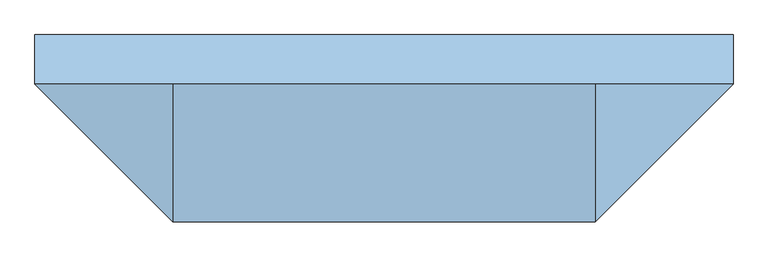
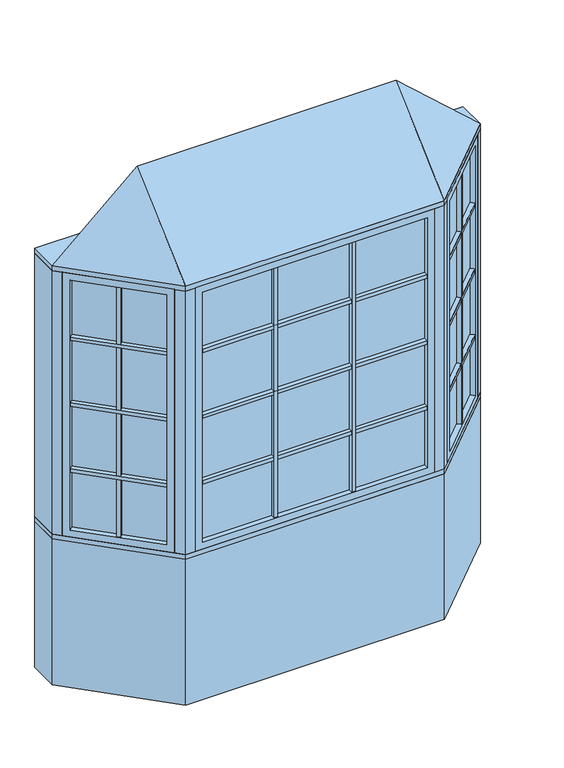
"""IFC4 building model written with IfcOpenShell, lengths in millimetres: window geometry, Pollard_Windows_Tudor Casement Bows and Bays : AML-BAY 45 AFR0614-10-500_GC."""

from ifc_helpers import new_model, si_unit, frame, origin, origin_with_axes, place, context, project, spatial, polyline, outline, extrude, faceted_brep, source, transform, mapped, element, save


def window_c85f83c4(model_context):
    return source(origin(), model_context, "Body", "SolidModel", [
        extrude(outline(polyline([(709.3614193, -437.1108753), (693.8050701, -421.5545261), (1001.616171, -113.7434252), (1017.1725202, -129.2997743), (709.3614193, -437.1108753)])), frame((0.0, 0.0, 1490.998), z_axis=(0.0, 0.0, 1.0), x_axis=(1.0, 0.0, 0.0)), (0.0, 0.0, 1.0), 18.0),
        extrude(outline(polyline([(690.2129677, -417.9624236), (674.6566185, -402.4060744), (982.4677194, -94.5949735), (998.0240686, -110.1513227), (690.2129677, -417.9624236)])), frame((0.0, 0.0, 1490.998), z_axis=(0.0, 0.0, 1.0), x_axis=(1.0, 0.0, 0.0)), (0.0, 0.0, 1.0), 18.0),
        extrude(outline(polyline([(709.3614193, -437.1108753), (693.8050701, -421.5545261), (1001.616171, -113.7434252), (1017.1725202, -129.2997743), (709.3614193, -437.1108753)])), frame((0.0, 0.0, 1140.998), z_axis=(0.0, 0.0, 1.0), x_axis=(1.0, 0.0, 0.0)), (0.0, 0.0, 1.0), 18.0),
        extrude(outline(polyline([(690.2129677, -417.9624236), (674.6566185, -402.4060744), (982.4677194, -94.5949735), (998.0240686, -110.1513227), (690.2129677, -417.9624236)])), frame((0.0, 0.0, 1140.998), z_axis=(0.0, 0.0, 1.0), x_axis=(1.0, 0.0, 0.0)), (0.0, 0.0, 1.0), 18.0),
        extrude(outline(polyline([(709.3614193, -437.1108753), (693.8050701, -421.5545261), (1001.616171, -113.7434252), (1017.1725202, -129.2997743), (709.3614193, -437.1108753)])), frame((0.0, 0.0, 1490.998), z_axis=(0.0, 0.0, 1.0), x_axis=(1.0, 0.0, 0.0)), (0.0, 0.0, 1.0), 18.0),
        extrude(outline(polyline([(690.2129677, -417.9624236), (674.6566185, -402.4060744), (982.4677194, -94.5949735), (998.0240686, -110.1513227), (690.2129677, -417.9624236)])), frame((0.0, 0.0, 1490.998), z_axis=(0.0, 0.0, 1.0), x_axis=(1.0, 0.0, 0.0)), (0.0, 0.0, 1.0), 18.0),
        extrude(outline(polyline([(709.3614193, -437.1108753), (693.8050701, -421.5545261), (1001.616171, -113.7434252), (1017.1725202, -129.2997743), (709.3614193, -437.1108753)])), frame((0.0, 0.0, 1490.998), z_axis=(0.0, 0.0, 1.0), x_axis=(1.0, 0.0, 0.0)), (0.0, 0.0, 1.0), 18.0),
        extrude(outline(polyline([(690.2129677, -417.9624236), (674.6566185, -402.4060744), (982.4677194, -94.5949735), (998.0240686, -110.1513227), (690.2129677, -417.9624236)])), frame((0.0, 0.0, 1490.998), z_axis=(0.0, 0.0, 1.0), x_axis=(1.0, 0.0, 0.0)), (0.0, 0.0, 1.0), 18.0),
        extrude(outline(polyline([(709.3614193, -437.1108753), (693.8050701, -421.5545261), (1001.616171, -113.7434252), (1017.1725202, -129.2997743), (709.3614193, -437.1108753)])), frame((0.0, 0.0, 1840.998), z_axis=(0.0, 0.0, 1.0), x_axis=(1.0, 0.0, 0.0)), (0.0, 0.0, 1.0), 18.0),
        extrude(outline(polyline([(690.2129677, -417.9624236), (674.6566185, -402.4060744), (982.4677194, -94.5949735), (998.0240686, -110.1513227), (690.2129677, -417.9624236)])), frame((0.0, 0.0, 1840.998), z_axis=(0.0, 0.0, 1.0), x_axis=(1.0, 0.0, 0.0)), (0.0, 0.0, 1.0), 18.0),
        extrude(outline(polyline([(854.0745816, -261.2850146), (869.6309308, -276.8413638), (856.9030087, -289.5692858), (841.3466595, -274.0129366), (854.0745816, -261.2850146)])), frame((0.0, 0.0, 835.8628), z_axis=(0.0, 0.0, 1.0), x_axis=(1.0, 0.0, 0.0)), (0.0, 0.0, 1.0), 1328.2704),
        extrude(outline(polyline([(850.4824791, -257.6929121), (837.7545571, -270.4208342), (822.1982079, -254.864485), (834.92613, -242.1365629), (850.4824791, -257.6929121)])), frame((0.0, 0.0, 835.8628), z_axis=(0.0, 0.0, 1.0), x_axis=(1.0, 0.0, 0.0)), (0.0, 0.0, 1.0), 1328.2704),
        extrude(outline(polyline([(1010.5964271, -104.763169), (684.824814, -430.5347822), (681.2327115, -426.9426797), (1007.0043247, -101.1710666), (1010.5964271, -104.763169)])), frame((0.0, 0.0, 823.1628), z_axis=(0.0, 0.0, 1.0), x_axis=(1.0, 0.0, 0.0)), (0.0, 0.0, 1.0), 1353.6704),
        faceted_brep([(1001.616171, -113.7434252, 835.8628), (1019.5766833, -131.7039374, 835.8628), (1019.5766833, -131.7039374, 2164.1332), (1001.616171, -113.7434252, 2164.1332), (1007.0043247, -101.1710666, 823.1628), (1010.5964271, -104.763169, 823.1628), (1010.5964271, -104.763169, 2176.8332), (1007.0043247, -101.1710666, 2176.8332), (980.0635563, -92.1908105, 835.8628), (998.0240686, -110.1513227, 835.8628), (998.0240686, -110.1513227, 2164.1332), (980.0635563, -92.1908105, 2164.1332), (1044.9369265, -106.3436941, 799.998), (1005.4237996, -66.8305672, 799.998), (1005.4237996, -66.8305672, 2199.998), (1044.9369265, -106.3436941, 2199.998), (711.7655823, -439.5150383, 2164.1332), (693.8050701, -421.5545261, 2164.1332), (684.824814, -430.5347822, 2176.8332), (681.2327115, -426.9426797, 2176.8332), (690.2129677, -417.9624236, 2164.1332), (672.2524554, -400.0019114, 2164.1332), (646.8922121, -425.3621547, 2199.998), (686.4053391, -464.8752816, 2199.998), (711.7655823, -439.5150383, 835.8628), (693.8050701, -421.5545261, 835.8628), (684.824814, -430.5347822, 823.1628), (681.2327115, -426.9426797, 823.1628), (690.2129677, -417.9624236, 835.8628), (672.2524554, -400.0019114, 835.8628), (646.8922121, -425.3621547, 799.998), (686.4053391, -464.8752816, 799.998)], [[[0, 1, 2, 3]], [[4, 5, 6, 7]], [[8, 9, 10, 11]], [[12, 13, 14, 15]], [[3, 2, 16, 17]], [[7, 6, 18, 19]], [[11, 10, 20, 21]], [[15, 14, 22, 23]], [[17, 16, 24, 25]], [[19, 18, 26, 27]], [[21, 20, 28, 29]], [[23, 22, 30, 31]], [[25, 24, 1, 0]], [[5, 26, 18, 6], [3, 17, 25, 0]], [[27, 26, 5, 4]], [[7, 19, 27, 4], [9, 28, 20, 10]], [[29, 28, 9, 8]], [[13, 30, 22, 14], [11, 21, 29, 8]], [[31, 30, 13, 12]], [[15, 23, 31, 12], [1, 24, 16, 2]]]),
        extrude(outline(polyline([(204.6285333, -474.8306207), (204.6285333, -496.8306207), (186.6285333, -496.8306207), (186.6285333, -474.8306207), (204.6285333, -474.8306207)])), frame((0.0, 0.0, 835.8628), z_axis=(0.0, 0.0, 1.0), x_axis=(1.0, 0.0, 0.0)), (0.0, 0.0, 1.0), 1328.2704),
        extrude(outline(polyline([(204.6285333, -469.7506207), (186.6285333, -469.7506207), (186.6285333, -447.7506207), (204.6285333, -447.7506207), (204.6285333, -469.7506207)])), frame((0.0, 0.0, 835.8628), z_axis=(0.0, 0.0, 1.0), x_axis=(1.0, 0.0, 0.0)), (0.0, 0.0, 1.0), 1328.2704),
        extrude(outline(polyline([(-186.6285333, -474.8306207), (-186.6285333, -496.8306207), (-204.6285333, -496.8306207), (-204.6285333, -474.8306207), (-186.6285333, -474.8306207)])), frame((0.0, 0.0, 835.8628), z_axis=(0.0, 0.0, 1.0), x_axis=(1.0, 0.0, 0.0)), (0.0, 0.0, 1.0), 1328.2704),
        extrude(outline(polyline([(-186.6285333, -469.7506207), (-204.6285333, -469.7506207), (-204.6285333, -447.7506207), (-186.6285333, -447.7506207), (-186.6285333, -469.7506207)])), frame((0.0, 0.0, 835.8628), z_axis=(0.0, 0.0, 1.0), x_axis=(1.0, 0.0, 0.0)), (0.0, 0.0, 1.0), 1328.2704),
        extrude(outline(polyline([(-565.1852, -496.8306207), (-565.1852, -474.8306207), (565.1852, -474.8306207), (565.1852, -496.8306207), (-565.1852, -496.8306207)])), frame((0.0, 0.0, 1140.998), z_axis=(0.0, 0.0, 1.0), x_axis=(1.0, 0.0, 0.0)), (0.0, 0.0, 1.0), 18.0),
        extrude(outline(polyline([(-565.1852, -469.7506207), (-565.1852, -447.7506207), (565.1852, -447.7506207), (565.1852, -469.7506207), (-565.1852, -469.7506207)])), frame((0.0, 0.0, 1140.998), z_axis=(0.0, 0.0, 1.0), x_axis=(1.0, 0.0, 0.0)), (0.0, 0.0, 1.0), 18.0),
        extrude(outline(polyline([(-565.1852, -496.8306207), (-565.1852, -474.8306207), (565.1852, -474.8306207), (565.1852, -496.8306207), (-565.1852, -496.8306207)])), frame((0.0, 0.0, 1490.998), z_axis=(0.0, 0.0, 1.0), x_axis=(1.0, 0.0, 0.0)), (0.0, 0.0, 1.0), 18.0),
        extrude(outline(polyline([(-565.1852, -469.7506207), (-565.1852, -447.7506207), (565.1852, -447.7506207), (565.1852, -469.7506207), (-565.1852, -469.7506207)])), frame((0.0, 0.0, 1490.998), z_axis=(0.0, 0.0, 1.0), x_axis=(1.0, 0.0, 0.0)), (0.0, 0.0, 1.0), 18.0),
        extrude(outline(polyline([(-565.1852, -496.8306207), (-565.1852, -474.8306207), (565.1852, -474.8306207), (565.1852, -496.8306207), (-565.1852, -496.8306207)])), frame((0.0, 0.0, 1490.998), z_axis=(0.0, 0.0, 1.0), x_axis=(1.0, 0.0, 0.0)), (0.0, 0.0, 1.0), 18.0),
        extrude(outline(polyline([(-565.1852, -469.7506207), (-565.1852, -447.7506207), (565.1852, -447.7506207), (565.1852, -469.7506207), (-565.1852, -469.7506207)])), frame((0.0, 0.0, 1490.998), z_axis=(0.0, 0.0, 1.0), x_axis=(1.0, 0.0, 0.0)), (0.0, 0.0, 1.0), 18.0),
        extrude(outline(polyline([(-565.1852, -496.8306207), (-565.1852, -474.8306207), (565.1852, -474.8306207), (565.1852, -496.8306207), (-565.1852, -496.8306207)])), frame((0.0, 0.0, 1490.998), z_axis=(0.0, 0.0, 1.0), x_axis=(1.0, 0.0, 0.0)), (0.0, 0.0, 1.0), 18.0),
        extrude(outline(polyline([(-565.1852, -469.7506207), (-565.1852, -447.7506207), (565.1852, -447.7506207), (565.1852, -469.7506207), (-565.1852, -469.7506207)])), frame((0.0, 0.0, 1490.998), z_axis=(0.0, 0.0, 1.0), x_axis=(1.0, 0.0, 0.0)), (0.0, 0.0, 1.0), 18.0),
        extrude(outline(polyline([(-1017.1725202, -129.2997743), (-1001.616171, -113.7434252), (-693.8050701, -421.5545261), (-709.3614193, -437.1108753), (-1017.1725202, -129.2997743)])), frame((0.0, 0.0, 1140.998), z_axis=(0.0, 0.0, 1.0), x_axis=(1.0, 0.0, 0.0)), (0.0, 0.0, 1.0), 18.0),
        extrude(outline(polyline([(-998.0240686, -110.1513227), (-982.4677194, -94.5949735), (-674.6566185, -402.4060744), (-690.2129677, -417.9624236), (-998.0240686, -110.1513227)])), frame((0.0, 0.0, 1140.998), z_axis=(0.0, 0.0, 1.0), x_axis=(1.0, 0.0, 0.0)), (0.0, 0.0, 1.0), 18.0),
        extrude(outline(polyline([(-1017.1725202, -129.2997743), (-1001.616171, -113.7434252), (-693.8050701, -421.5545261), (-709.3614193, -437.1108753), (-1017.1725202, -129.2997743)])), frame((0.0, 0.0, 1490.998), z_axis=(0.0, 0.0, 1.0), x_axis=(1.0, 0.0, 0.0)), (0.0, 0.0, 1.0), 18.0),
        extrude(outline(polyline([(-998.0240686, -110.1513227), (-982.4677194, -94.5949735), (-674.6566185, -402.4060744), (-690.2129677, -417.9624236), (-998.0240686, -110.1513227)])), frame((0.0, 0.0, 1490.998), z_axis=(0.0, 0.0, 1.0), x_axis=(1.0, 0.0, 0.0)), (0.0, 0.0, 1.0), 18.0),
        extrude(outline(polyline([(-1017.1725202, -129.2997743), (-1001.616171, -113.7434252), (-693.8050701, -421.5545261), (-709.3614193, -437.1108753), (-1017.1725202, -129.2997743)])), frame((0.0, 0.0, 1490.998), z_axis=(0.0, 0.0, 1.0), x_axis=(1.0, 0.0, 0.0)), (0.0, 0.0, 1.0), 18.0),
        extrude(outline(polyline([(-998.0240686, -110.1513227), (-982.4677194, -94.5949735), (-674.6566185, -402.4060744), (-690.2129677, -417.9624236), (-998.0240686, -110.1513227)])), frame((0.0, 0.0, 1490.998), z_axis=(0.0, 0.0, 1.0), x_axis=(1.0, 0.0, 0.0)), (0.0, 0.0, 1.0), 18.0),
        extrude(outline(polyline([(-1017.1725202, -129.2997743), (-1001.616171, -113.7434252), (-693.8050701, -421.5545261), (-709.3614193, -437.1108753), (-1017.1725202, -129.2997743)])), frame((0.0, 0.0, 1490.998), z_axis=(0.0, 0.0, 1.0), x_axis=(1.0, 0.0, 0.0)), (0.0, 0.0, 1.0), 18.0),
        extrude(outline(polyline([(-998.0240686, -110.1513227), (-982.4677194, -94.5949735), (-674.6566185, -402.4060744), (-690.2129677, -417.9624236), (-998.0240686, -110.1513227)])), frame((0.0, 0.0, 1490.998), z_axis=(0.0, 0.0, 1.0), x_axis=(1.0, 0.0, 0.0)), (0.0, 0.0, 1.0), 18.0),
        extrude(outline(polyline([(-1017.1725202, -129.2997743), (-1001.616171, -113.7434252), (-693.8050701, -421.5545261), (-709.3614193, -437.1108753), (-1017.1725202, -129.2997743)])), frame((0.0, 0.0, 1840.998), z_axis=(0.0, 0.0, 1.0), x_axis=(1.0, 0.0, 0.0)), (0.0, 0.0, 1.0), 18.0),
        extrude(outline(polyline([(-998.0240686, -110.1513227), (-982.4677194, -94.5949735), (-674.6566185, -402.4060744), (-690.2129677, -417.9624236), (-998.0240686, -110.1513227)])), frame((0.0, 0.0, 1840.998), z_axis=(0.0, 0.0, 1.0), x_axis=(1.0, 0.0, 0.0)), (0.0, 0.0, 1.0), 18.0),
        extrude(outline(polyline([(-565.1852, -496.8306207), (-565.1852, -474.8306207), (565.1852, -474.8306207), (565.1852, -496.8306207), (-565.1852, -496.8306207)])), frame((0.0, 0.0, 1840.998), z_axis=(0.0, 0.0, 1.0), x_axis=(1.0, 0.0, 0.0)), (0.0, 0.0, 1.0), 18.0),
        extrude(outline(polyline([(-565.1852, -469.7506207), (-565.1852, -447.7506207), (565.1852, -447.7506207), (565.1852, -469.7506207), (-565.1852, -469.7506207)])), frame((0.0, 0.0, 1840.998), z_axis=(0.0, 0.0, 1.0), x_axis=(1.0, 0.0, 0.0)), (0.0, 0.0, 1.0), 18.0),
        extrude(outline(polyline([(-841.3466595, -274.0129366), (-856.9030087, -289.5692858), (-869.6309308, -276.8413638), (-854.0745816, -261.2850146), (-841.3466595, -274.0129366)])), frame((0.0, 0.0, 835.8628), z_axis=(0.0, 0.0, 1.0), x_axis=(1.0, 0.0, 0.0)), (0.0, 0.0, 1.0), 1328.2704),
        extrude(outline(polyline([(-837.7545571, -270.4208342), (-850.4824791, -257.6929121), (-834.92613, -242.1365629), (-822.1982079, -254.864485), (-837.7545571, -270.4208342)])), frame((0.0, 0.0, 835.8628), z_axis=(0.0, 0.0, 1.0), x_axis=(1.0, 0.0, 0.0)), (0.0, 0.0, 1.0), 1328.2704),
        extrude(outline(polyline([(-684.824814, -430.5347822), (-1010.5964271, -104.763169), (-1007.0043247, -101.1710666), (-681.2327115, -426.9426797), (-684.824814, -430.5347822)])), frame((0.0, 0.0, 823.1628), z_axis=(0.0, 0.0, 1.0), x_axis=(1.0, 0.0, 0.0)), (0.0, 0.0, 1.0), 1353.6704),
        faceted_brep([(-690.2129677, -417.9624236, 2164.1332), (-672.2524554, -400.0019114, 2164.1332), (-672.2524554, -400.0019114, 835.8628), (-690.2129677, -417.9624236, 835.8628), (-684.824814, -430.5347822, 2176.8332), (-681.2327115, -426.9426797, 2176.8332), (-681.2327115, -426.9426797, 823.1628), (-684.824814, -430.5347822, 823.1628), (-711.7655823, -439.5150383, 2164.1332), (-693.8050701, -421.5545261, 2164.1332), (-693.8050701, -421.5545261, 835.8628), (-711.7655823, -439.5150383, 835.8628), (-646.8922121, -425.3621547, 2199.998), (-686.4053391, -464.8752816, 2199.998), (-686.4053391, -464.8752816, 799.998), (-646.8922121, -425.3621547, 799.998), (-980.0635563, -92.1908105, 835.8628), (-998.0240686, -110.1513227, 835.8628), (-1007.0043247, -101.1710666, 823.1628), (-1010.5964271, -104.763169, 823.1628), (-1001.616171, -113.7434252, 835.8628), (-1019.5766833, -131.7039374, 835.8628), (-1044.9369265, -106.3436941, 799.998), (-1005.4237996, -66.8305672, 799.998), (-980.0635563, -92.1908105, 2164.1332), (-998.0240686, -110.1513227, 2164.1332), (-1007.0043247, -101.1710666, 2176.8332), (-1010.5964271, -104.763169, 2176.8332), (-1001.616171, -113.7434252, 2164.1332), (-1019.5766833, -131.7039374, 2164.1332), (-1044.9369265, -106.3436941, 2199.998), (-1005.4237996, -66.8305672, 2199.998)], [[[0, 1, 2, 3]], [[4, 5, 6, 7]], [[8, 9, 10, 11]], [[12, 13, 14, 15]], [[3, 2, 16, 17]], [[7, 6, 18, 19]], [[11, 10, 20, 21]], [[15, 14, 22, 23]], [[17, 16, 24, 25]], [[19, 18, 26, 27]], [[21, 20, 28, 29]], [[23, 22, 30, 31]], [[15, 23, 31, 12], [1, 24, 16, 2]], [[25, 24, 1, 0]], [[5, 26, 18, 6], [3, 17, 25, 0]], [[27, 26, 5, 4]], [[7, 19, 27, 4], [9, 28, 20, 10]], [[29, 28, 9, 8]], [[13, 30, 22, 14], [11, 21, 29, 8]], [[31, 30, 13, 12]]]),
        extrude(outline(polyline([(577.8852, -474.8306207), (-577.8852, -474.8306207), (-577.8852, -469.7506207), (577.8852, -469.7506207), (577.8852, -474.8306207)])), frame((0.0, 0.0, 823.1628), z_axis=(0.0, 0.0, 1.0), x_axis=(1.0, 0.0, 0.0)), (0.0, 0.0, 1.0), 1353.6704),
        faceted_brep([(565.1852, -474.8306207, 835.8628), (565.1852, -500.2306207, 835.8628), (565.1852, -500.2306207, 2164.1332), (565.1852, -474.8306207, 2164.1332), (577.8852, -469.7506207, 823.1628), (577.8852, -474.8306207, 823.1628), (577.8852, -474.8306207, 2176.8332), (577.8852, -469.7506207, 2176.8332), (565.1852, -444.3506207, 835.8628), (565.1852, -469.7506207, 835.8628), (565.1852, -469.7506207, 2164.1332), (565.1852, -444.3506207, 2164.1332), (601.05, -500.2306207, 799.998), (601.05, -444.3506207, 799.998), (601.05, -444.3506207, 2199.998), (601.05, -500.2306207, 2199.998), (-565.1852, -500.2306207, 2164.1332), (-565.1852, -474.8306207, 2164.1332), (-577.8852, -474.8306207, 2176.8332), (-577.8852, -469.7506207, 2176.8332), (-565.1852, -469.7506207, 2164.1332), (-565.1852, -444.3506207, 2164.1332), (-601.05, -444.3506207, 2199.998), (-601.05, -500.2306207, 2199.998), (-565.1852, -500.2306207, 835.8628), (-565.1852, -474.8306207, 835.8628), (-577.8852, -474.8306207, 823.1628), (-577.8852, -469.7506207, 823.1628), (-565.1852, -469.7506207, 835.8628), (-565.1852, -444.3506207, 835.8628), (-601.05, -444.3506207, 799.998), (-601.05, -500.2306207, 799.998)], [[[0, 1, 2, 3]], [[4, 5, 6, 7]], [[8, 9, 10, 11]], [[12, 13, 14, 15]], [[3, 2, 16, 17]], [[7, 6, 18, 19]], [[11, 10, 20, 21]], [[15, 14, 22, 23]], [[17, 16, 24, 25]], [[19, 18, 26, 27]], [[21, 20, 28, 29]], [[23, 22, 30, 31]], [[15, 23, 31, 12], [1, 24, 16, 2]], [[25, 24, 1, 0]], [[5, 26, 18, 6], [3, 17, 25, 0]], [[27, 26, 5, 4]], [[7, 19, 27, 4], [9, 28, 20, 10]], [[29, 28, 9, 8]], [[13, 30, 22, 14], [11, 21, 29, 8]], [[31, 30, 13, 12]]]),
        faceted_brep([(1076.5, -74.7806207, 2225.398), (651.05, -500.2306207, 2225.398), (-651.05, -500.2306207, 2225.398), (-1076.5, -74.7806207, 2225.398), (-651.05, -74.7806207, 2606.398), (651.05, -74.7806207, 2606.398)], [[[0, 1, 2, 3]], [[3, 2, 4]], [[2, 1, 5, 4]], [[1, 0, 5]], [[0, 3, 4, 5]]]),
        extrude(outline(polyline([(-1076.5, 77.6193793), (1076.5, 77.6193793), (1076.5, -74.7806207), (651.05, -500.2306207), (-651.05, -500.2306207), (-1076.5, -74.7806207), (-1076.5, 77.6193793)])), frame((0.0, 0.0, 2199.998), z_axis=(0.0, 0.0, 1.0), x_axis=(1.0, 0.0, 0.0)), (0.0, 0.0, 1.0), 25.4),
        extrude(outline(polyline([(-1076.5, -74.7806207), (-1076.5, 77.6193793), (-1013.3738531, 77.6193793), (-1013.3738531, -74.7806207), (-1044.9369265, -106.3436941), (-1076.5, -74.7806207)])), frame((0.0, 0.0, 799.998), z_axis=(0.0, 0.0, 1.0), x_axis=(1.0, 0.0, 0.0)), (0.0, 0.0, 1.0), 1400.0),
        extrude(outline(polyline([(1076.5, 77.6193793), (1076.5, -74.7806207), (1044.9369265, -106.3436941), (1013.3738531, -74.7806207), (1013.3738531, 77.6193793), (1076.5, 77.6193793)])), frame((0.0, 0.0, 799.998), z_axis=(0.0, 0.0, 1.0), x_axis=(1.0, 0.0, 0.0)), (0.0, 0.0, 1.0), 1400.0),
        extrude(outline(polyline([(651.05, -500.2306207), (601.05, -500.2306207), (601.05, -450.2306207), (630.3393219, -450.2306207), (651.05, -429.5199425), (686.4053391, -464.8752816), (651.05, -500.2306207)])), frame((0.0, 0.0, 799.998), z_axis=(0.0, 0.0, 1.0), x_axis=(1.0, 0.0, 0.0)), (0.0, 0.0, 1.0), 1400.0),
        extrude(outline(polyline([(-651.05, -500.2306207), (-686.4053391, -464.8752816), (-651.05, -429.5199425), (-630.3393219, -450.2306207), (-601.05, -450.2306207), (-601.05, -500.2306207), (-651.05, -500.2306207)])), frame((0.0, 0.0, 799.998), z_axis=(0.0, 0.0, 1.0), x_axis=(1.0, 0.0, 0.0)), (0.0, 0.0, 1.0), 1400.0),
        extrude(outline(polyline([(-651.05, -500.2306207), (-1076.5, -74.7806207), (-1076.5, 77.6193793), (-1013.3738531, 77.6193793), (-587.9238531, -347.8306207), (587.9238531, -347.8306207), (1013.3738531, 77.6193793), (1076.5, 77.6193793), (1076.5, -74.7806207), (651.05, -500.2306207), (-651.05, -500.2306207)])), frame((0.0, 0.0, 774.598), z_axis=(0.0, 0.0, 1.0), x_axis=(1.0, 0.0, 0.0)), (0.0, 0.0, 1.0), 25.4),
        extrude(outline(polyline([(-1076.5, -74.7806207), (-1076.5, 77.6193793), (-1013.3738531, 77.6193793), (-587.9238531, -347.8306207), (587.9238531, -347.8306207), (1013.3738531, 77.6193793), (1076.5, 77.6193793), (1076.5, -74.7806207), (651.05, -500.2306207), (-651.05, -500.2306207), (-1076.5, -74.7806207)])), origin_with_axes(), (0.0, 0.0, 1.0), 774.598),
    ])


if __name__ == "__main__":
    model = new_model("IFC4")
    model_context = context("Model", 3, world=origin())
    ifc_project = project(units=[si_unit("LENGTHUNIT", "METRE", prefix="MILLI")], contexts=[model_context])
    site = spatial("IfcSite", under=ifc_project)
    building = spatial("IfcBuilding", under=site)
    placement = place(None, origin())
    window_shape = window_c85f83c4(model_context)
    element("IfcWindow", 1, ObjectType="Pollard_Windows_Tudor Casement Bows and Bays : AML-BAY 45 AFR0614-10-500_GC", at=placement, inside=building, context=model_context, shape_type="MappedRepresentation", body=[
        mapped(window_shape, transform((0.0, 0.0, 0.0), x_axis=(1.0, 0.0, 0.0), y_axis=(0.0, 1.0, 0.0), z_axis=(0.0, 0.0, 1.0))),
    ])
    save(model, "model.ifc")
